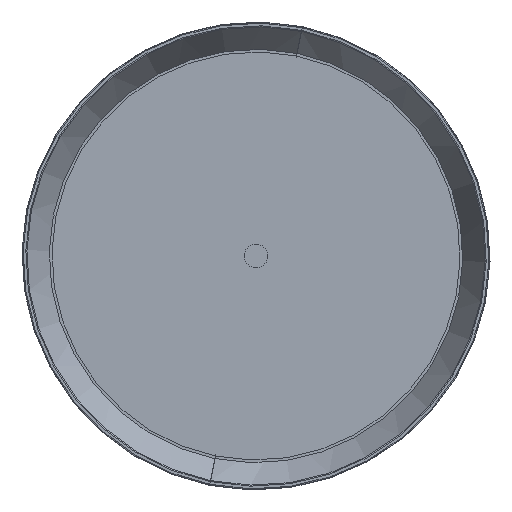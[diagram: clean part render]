
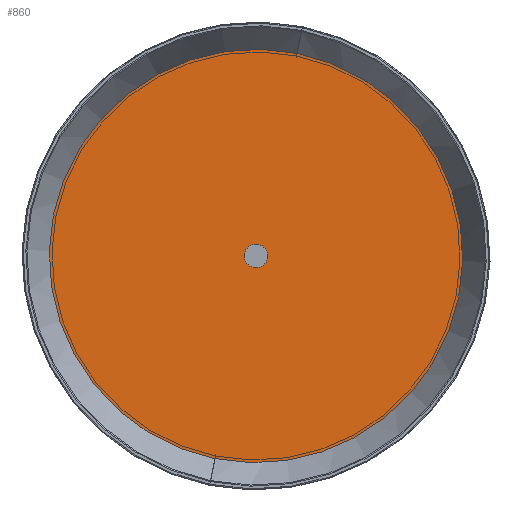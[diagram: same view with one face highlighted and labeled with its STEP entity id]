
A CAD part, front view. The second image highlights one B-rep face of the part: STEP entity #860.
In plain terms, the highlighted planar face has unit normal (0, -1, 0).
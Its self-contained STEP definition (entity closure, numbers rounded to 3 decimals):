
#31 = DIRECTION ( 'NONE',  ( 0., 1., 0. ) ) ;
#46 = EDGE_LOOP ( 'NONE', ( #680, #372 ) ) ;
#58 = DIRECTION ( 'NONE',  ( 0., -1., 0. ) ) ;
#85 = AXIS2_PLACEMENT_3D ( 'NONE', #764, #58, #776 ) ;
#116 = CIRCLE ( 'NONE', #683, 88. ) ;
#144 = CIRCLE ( 'NONE', #85, 88. ) ;
#360 = VERTEX_POINT ( 'NONE', #402 ) ;
#372 = ORIENTED_EDGE ( 'NONE', *, *, #485, .T. ) ;
#402 = CARTESIAN_POINT ( 'NONE',  ( -88., 15., 0. ) ) ;
#412 = DIRECTION ( 'NONE',  ( -1., 0., 0. ) ) ;
#485 = EDGE_CURVE ( 'NONE', #360, #771, #116, .T. ) ;
#564 = CARTESIAN_POINT ( 'NONE',  ( -88., 15., 0. ) ) ;
#566 = EDGE_CURVE ( 'NONE', #771, #360, #144, .T. ) ;
#634 = FACE_OUTER_BOUND ( 'NONE', #46, .T. ) ;
#673 = DIRECTION ( 'NONE',  ( 0., -1., 0. ) ) ;
#680 = ORIENTED_EDGE ( 'NONE', *, *, #566, .T. ) ;
#683 = AXIS2_PLACEMENT_3D ( 'NONE', #826, #673, #914 ) ;
#764 = CARTESIAN_POINT ( 'NONE',  ( 0., 15., 0. ) ) ;
#771 = VERTEX_POINT ( 'NONE', #872 ) ;
#776 = DIRECTION ( 'NONE',  ( 1., 0., 0. ) ) ;
#826 = CARTESIAN_POINT ( 'NONE',  ( 0., 15., 0. ) ) ;
#860 = ADVANCED_FACE ( 'NONE', ( #634 ), #891, .F. ) ;
#872 = CARTESIAN_POINT ( 'NONE',  ( 88., 15., 0. ) ) ;
#891 = PLANE ( 'NONE',  #994 ) ;
#914 = DIRECTION ( 'NONE',  ( 1., 0., 0. ) ) ;
#994 = AXIS2_PLACEMENT_3D ( 'NONE', #564, #31, #412 ) ;
